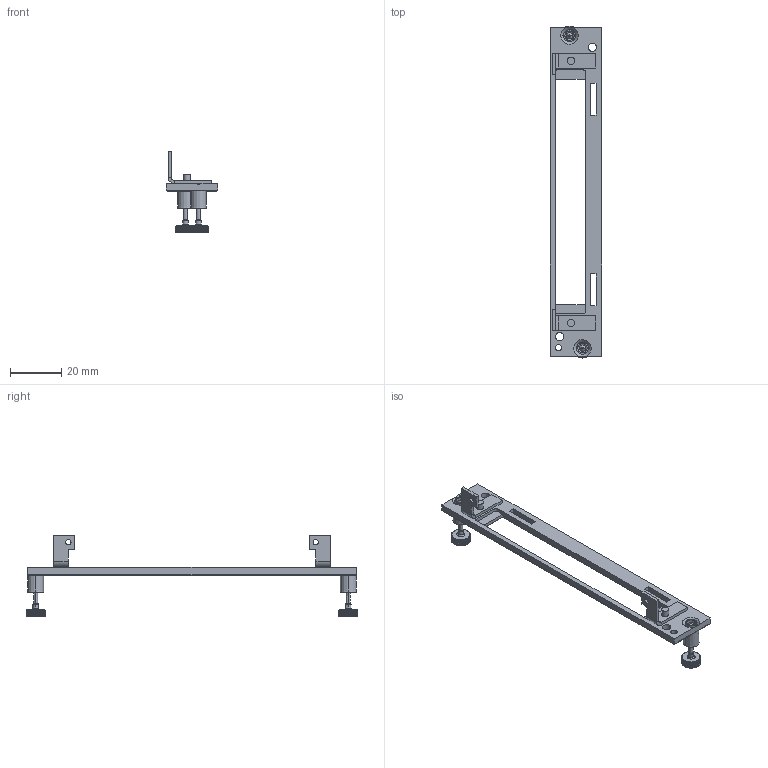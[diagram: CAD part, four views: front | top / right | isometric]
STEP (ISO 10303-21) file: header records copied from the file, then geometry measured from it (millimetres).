
FILE_DESCRIPTION((''),'2;1');
FILE_NAME('CD_PXIE-4300','2010-04-12T',('scarrasc'),(''),'PRO/ENGINEER BY PARAMETRIC TECHNOLOGY CORPORATION, 2006080','PRO/ENGINEER BY PARAMETRIC TECHNOLOGY CORPORATION, 2006080','');
FILE_SCHEMA(('CONFIG_CONTROL_DESIGN'));
Length unit declared in the file: inch
Products named in the file (1): CD_PXIE-4300
Bounding box: 20.02 x 130.05 x 32.12 mm (x, y, z)
Volume: 5246 mm3; surface area: 6501 mm2
Topology: 3 solids, 3 shells, 622 faces, 1662 edges, 1060 vertices
Faces by surface type: plane 366, extrusion 130, cylinder 82, bspline 36, cone 4, torus 4
Entity records: 27373 total; most frequent: CARTESIAN_POINT 13489, ORIENTED_EDGE 3316, DIRECTION 1996, EDGE_CURVE 1658, VERTEX_POINT 1060, B_SPLINE_CURVE_WITH_KNOTS 924, VECTOR 904, LINE 774
